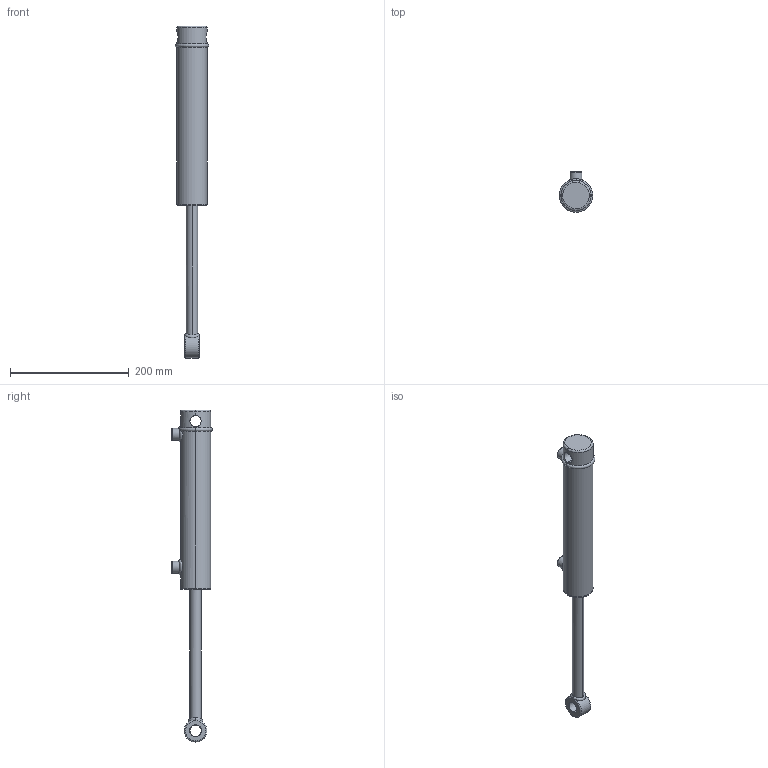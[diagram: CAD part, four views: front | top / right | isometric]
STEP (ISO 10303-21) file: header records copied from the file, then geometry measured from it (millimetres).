
FILE_DESCRIPTION (( 'STEP AP203' ), '1' );
FILE_NAME ('SB-C150075X203 (8) extended.STEP', '2014-12-18T20:03:04', ( '' ), ( '' ), 'SwSTEP 2.0', 'SolidWorks 2015', '' );
FILE_SCHEMA (( 'CONFIG_CONTROL_DESIGN' ));
Length unit declared in the file: millimetre
Products named in the file (3): BODY_8; SPARE_8; SB-C150075X203 (8) extended
Assembly tree (2 placements, depth 2):
  SB-C150075X203 (8) extended
    BODY_8
    SPARE_8
Bounding box: 56.7 x 68.75 x 560 mm (x, y, z)
Volume: 668021.3 mm3; surface area: 87262.1 mm2
Topology: 2 solids, 2 shells, 90 faces, 211 edges, 127 vertices
Faces by surface type: cylinder 32, torus 20, bspline 17, plane 13, cone 8
Entity records: 8172 total; most frequent: CARTESIAN_POINT 5968, ORIENTED_EDGE 414, DIRECTION 380, EDGE_CURVE 207, AXIS2_PLACEMENT_3D 169, VERTEX_POINT 127, EDGE_LOOP 104, CIRCLE 91
